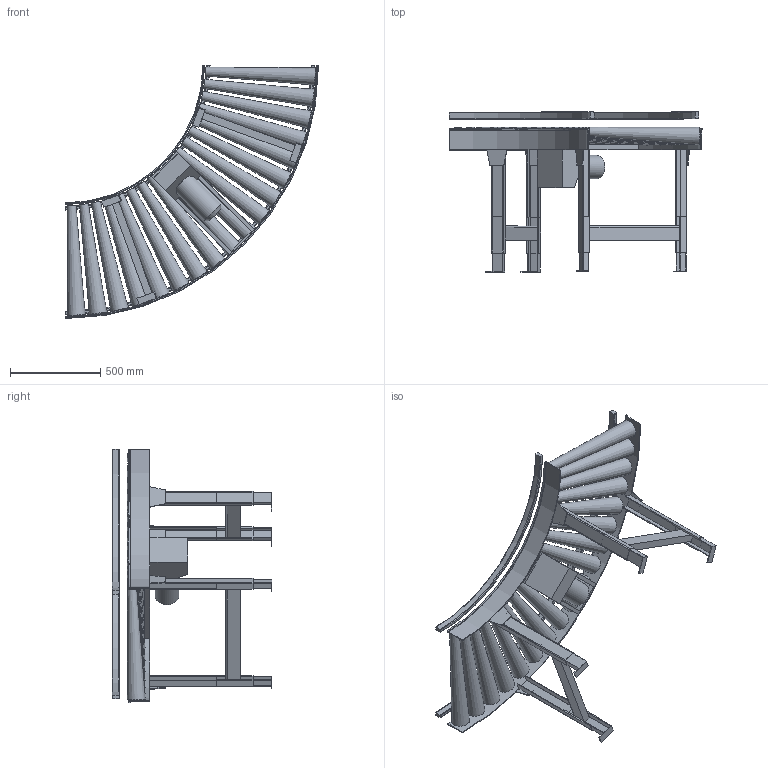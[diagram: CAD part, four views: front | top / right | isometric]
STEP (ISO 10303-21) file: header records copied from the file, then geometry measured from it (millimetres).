
FILE_DESCRIPTION((''),'2;1');
FILE_NAME('C:\Vault_Working_Folder\Designs\Inventor\Lättviktsmodeller\Klart\Midi\IRKR_IRUR_IRKV 50-620-90.stp','2012-11-13T11:55:21',('martin.samuelsson'),(''),'Autodesk Inventor 2013','Autodesk Inventor 2013','');
FILE_SCHEMA(('AUTOMOTIVE_DESIGN { 1 0 10303 214 1 1 1 1 }'));
Length unit declared in the file: millimetre
Products named in the file (1): IRKR_IRUR_IRKV 50-620-90
Bounding box: 1400 x 885 x 1400 mm (x, y, z)
Volume: 69207872.1 mm3; surface area: 5492545.1 mm2
Topology: 25 solids, 25 shells, 238 faces, 554 edges, 367 vertices
Faces by surface type: plane 184, cylinder 27, cone 19, torus 8
Full cylindrical faces by diameter (mm): 130 x1
Entity records: 6742 total; most frequent: CARTESIAN_POINT 1138, DIRECTION 1129, ORIENTED_EDGE 1066, EDGE_CURVE 533, VECTOR 415, LINE 415, VERTEX_POINT 366, AXIS2_PLACEMENT_3D 357
